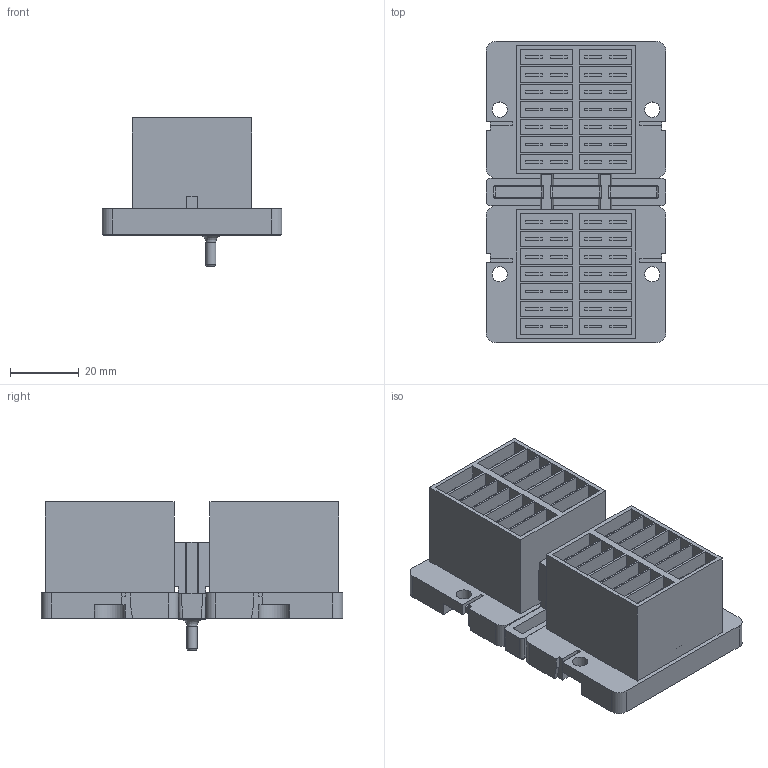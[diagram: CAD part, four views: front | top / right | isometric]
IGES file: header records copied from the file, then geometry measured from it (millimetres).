
Global section: file name: No Iges File Name specified; native system: Autodesk Inventor 2012; preprocessor: AutoDesk Inventor Iges Exporter R2012; author: a.vos; date: 20120112.112203; units: millimetre
Bounding box: 52.5 x 88 x 43.25 mm (x, y, z)
Volume: 76715.1 mm3; surface area: 40723.2 mm2
Topology: 1 solids, 1 shells, 863 faces, 2224 edges, 1452 vertices
Faces by surface type: plane 750, revolution 55, bspline 33, cylinder 24, torus 1
Full cylindrical faces by diameter (mm): 3 x1
